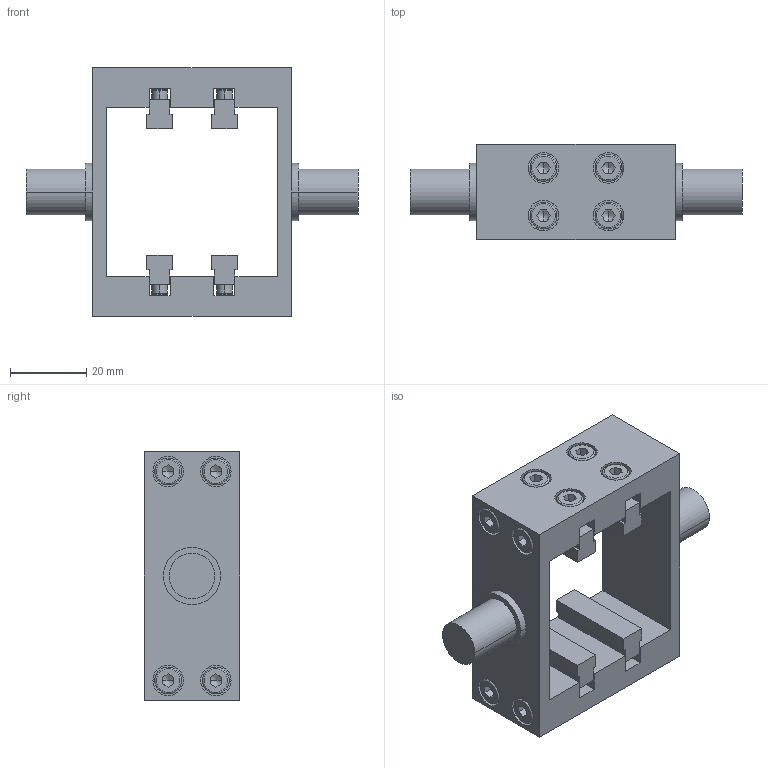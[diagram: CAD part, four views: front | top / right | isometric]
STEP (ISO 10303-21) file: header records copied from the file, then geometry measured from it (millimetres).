
FILE_DESCRIPTION((''),'2;1');
FILE_NAME('CIN032.stp','2008-02-17T17:03:42',('BP'),('AZ PNEUMATICA S.r.l.'),'Mechanical Desktop 2006','Mechanical Desktop 2006','Via Marco Biagi 6, 20020 Misinto (MI) Italia, azpneu@tin.it');
FILE_SCHEMA(('CONFIG_CONTROL_DESIGN'));
Length unit declared in the file: millimetre
Products named in the file (2): SREDNJI NOSAC CILINDRA; PART1
Assembly tree (1 placements, depth 2):
  SREDNJI NOSAC CILINDRA
    PART1
Bounding box: 87 x 25 x 65 mm (x, y, z)
Volume: 39794.3 mm3; surface area: 21960.7 mm2
Topology: 1 solids, 1 shells, 422 faces, 1112 edges, 720 vertices
Faces by surface type: plane 222, cylinder 112, cone 56, bspline 32
Entity records: 14321 total; most frequent: CARTESIAN_POINT 4120, ORIENTED_EDGE 2176, DIRECTION 2064, EDGE_CURVE 1088, AXIS2_PLACEMENT_3D 760, VERTEX_POINT 720, VECTOR 544, LINE 544
